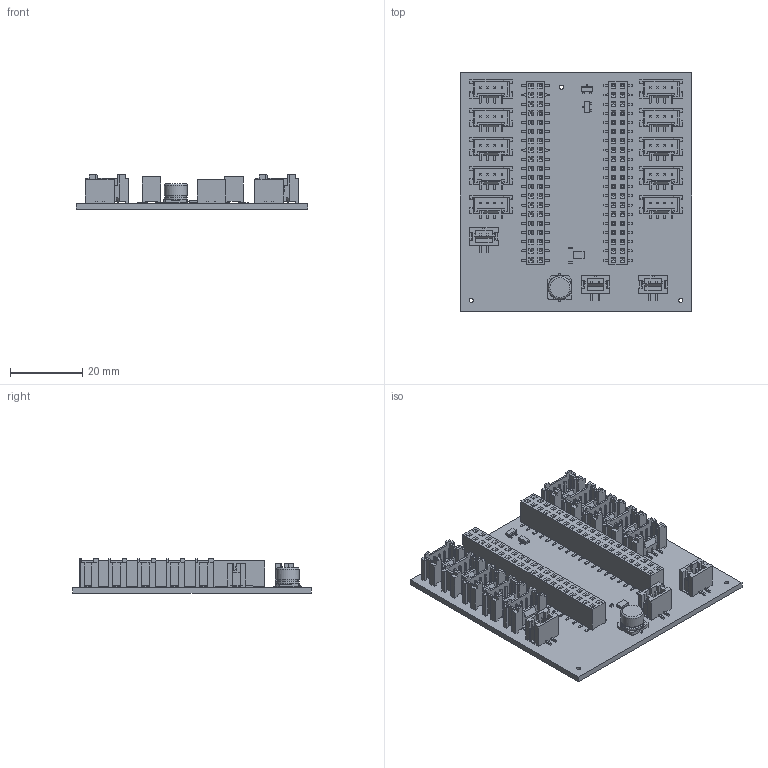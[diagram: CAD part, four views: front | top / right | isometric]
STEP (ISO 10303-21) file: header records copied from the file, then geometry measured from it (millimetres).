
FILE_DESCRIPTION(('KiCad electronic assembly'),'2;1');
FILE_NAME('fredo.step','2024-08-17T13:10:26',('Pcbnew'),('Kicad'), 'Open CASCADE STEP processor 7.7','KiCad to STEP converter','Unknown' );
FILE_SCHEMA(('AUTOMOTIVE_DESIGN { 1 0 10303 214 1 1 1 1 }'));
Length unit declared in the file: millimetre
Products named in the file (16): fredo 1; GROVE-HW4-SMD-2.0; Grove Connector (sit); DSS0012A; DSS0012A_ASM; B2B-PH-SM4-TB; B2B-PH-SM4; SOT-23; SOT_23; PinSocket_2x20_P2.54mm_Vertical_SMD; PinSocket_2x20_P254mm_Vertical_SMD; C_0402_1005Metric; C_Elec_6.3x5.4; C_Elec_63x54; fredo_PCB
Assembly tree (29 placements, depth 3):
  fredo 1
    GROVE-HW4-SMD-2.0  x10
      Grove Connector (sit)
    DSS0012A
      DSS0012A_ASM
    B2B-PH-SM4-TB  x3
      B2B-PH-SM4
    SOT-23  x2
      SOT_23
    PinSocket_2x20_P2.54mm_Vertical_SMD  x2
      PinSocket_2x20_P254mm_Vertical_SMD
    C_0402_1005Metric  x2
      C_0402_1005Metric
    C_Elec_6.3x5.4
      C_Elec_63x54
    fredo_PCB
Bounding box: 64 x 66 x 9.55 mm (x, y, z)
Volume: 12720.6 mm3; surface area: 20684.4 mm2
Topology: 36 solids, 36 shells, 5486 faces, 13997 edges, 8914 vertices
Faces by surface type: plane 4955, cylinder 472, bspline 56, torus 2, revolution 1
Full cylindrical faces by diameter (mm): 0.02 x1, 1.152 x3, 1.2 x4, 6.3 x2
Entity records: 72556 total; most frequent: CARTESIAN_POINT 10769, ORIENTED_EDGE 10310, DIRECTION 9603, EDGE_CURVE 5155, LINE 4710, VECTOR 4710, VERTEX_POINT 3294, AXIS2_PLACEMENT_3D 2446
